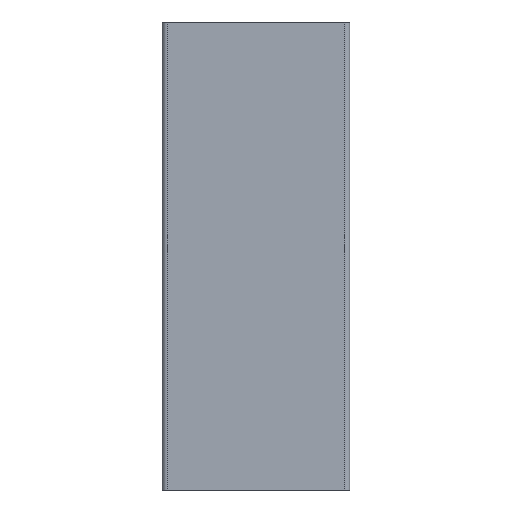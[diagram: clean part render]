
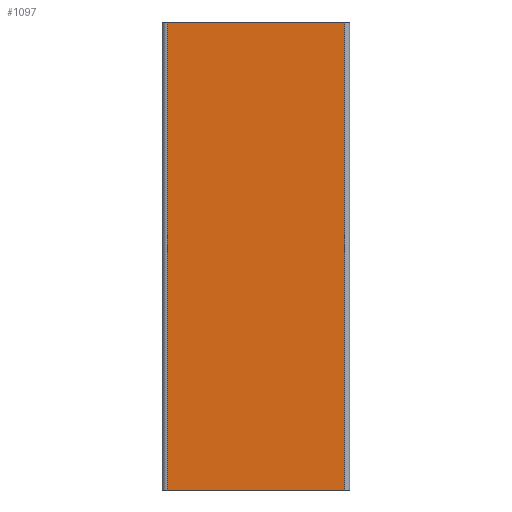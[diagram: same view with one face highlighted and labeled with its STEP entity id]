
A CAD part, left-side view. The second image highlights one B-rep face of the part: STEP entity #1097.
In plain terms, the highlighted planar face has unit normal (-1, 0, 0).
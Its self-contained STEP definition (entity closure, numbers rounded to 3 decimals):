
#153=CARTESIAN_POINT('',(-20.,19.,100.0));
#154=VERTEX_POINT('',#153);
#172=CARTESIAN_POINT('',(-20.,19.,0.0));
#173=VERTEX_POINT('',#172);
#181=CARTESIAN_POINT('',(-20.,19.,0.0));
#182=DIRECTION('',(0.0,0.0,1.0));
#183=VECTOR('',#182,100.0);
#184=LINE('',#181,#183);
#185=EDGE_CURVE('',#173,#154,#184,.T.);
#288=CARTESIAN_POINT('',(-20.,-19.,0.0));
#289=VERTEX_POINT('',#288);
#290=CARTESIAN_POINT('',(-20.,19.0,0.0));
#291=DIRECTION('',(0.0,-1.0,0.0));
#292=VECTOR('',#291,38.);
#293=LINE('',#290,#292);
#294=EDGE_CURVE('',#173,#289,#293,.T.);
#1056=CARTESIAN_POINT('',(-20.,-19.,100.0));
#1057=VERTEX_POINT('',#1056);
#1065=CARTESIAN_POINT('',(-20.,-19.,100.0));
#1066=DIRECTION('',(0.0,0.0,-1.0));
#1067=VECTOR('',#1066,100.0);
#1068=LINE('',#1065,#1067);
#1069=EDGE_CURVE('',#1057,#289,#1068,.T.);
#1081=CARTESIAN_POINT('',(-20.,-20.,0.0));
#1082=DIRECTION('',(-1.0,0.0,0.0));
#1083=DIRECTION('',(0.0,0.0,1.0));
#1084=AXIS2_PLACEMENT_3D('',#1081,#1082,#1083);
#1085=PLANE('',#1084);
#1086=ORIENTED_EDGE('',*,*,#1069,.F.);
#1087=CARTESIAN_POINT('',(-20.,-19.,100.0));
#1088=DIRECTION('',(0.0,1.0,0.0));
#1089=VECTOR('',#1088,38.);
#1090=LINE('',#1087,#1089);
#1091=EDGE_CURVE('',#1057,#154,#1090,.T.);
#1092=ORIENTED_EDGE('',*,*,#1091,.T.);
#1093=ORIENTED_EDGE('',*,*,#185,.F.);
#1094=ORIENTED_EDGE('',*,*,#294,.T.);
#1095=EDGE_LOOP('',(#1086,#1092,#1093,#1094));
#1096=FACE_OUTER_BOUND('',#1095,.T.);
#1097=ADVANCED_FACE('',(#1096),#1085,.T.);
